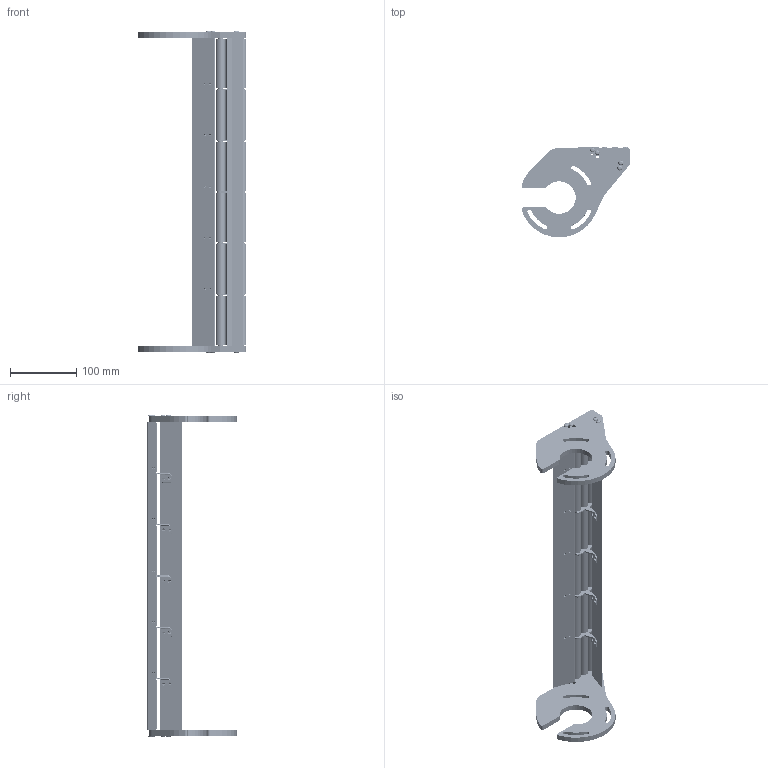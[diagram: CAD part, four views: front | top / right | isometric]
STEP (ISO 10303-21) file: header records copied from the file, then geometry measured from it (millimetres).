
FILE_DESCRIPTION (( 'STEP AP214' ), '1' );
FILE_NAME ('CAB 18 TGRI 1.STEP', '2024-02-27T08:05:51', ( '' ), ( '' ), 'SwSTEP 2.0', 'SolidWorks 2022', '' );
FILE_SCHEMA (( 'AUTOMOTIVE_DESIGN' ));
Length unit declared in the file: millimetre
Products named in the file (13): PSTI CAB 1 Symétrie; ROULEMENT TGRI CAB FLEXTOO; SA TGRI + ENTRETOISE; TBHC 4X16; ENTRETOISE SA TGRI; ENTRETOISE TGRI CAB-F2-R-HEF; PT-F2 - CAB 18 ALU; SA TGRI; PSTI CAB 1; Galet + roulement CAB 18; GR CAB 18; AXE TGRI CAB 18; CAB 18 TGRI 1
Assembly tree (51 placements, depth 3):
  CAB 18 TGRI 1
    PSTI CAB 1 Symétrie
    PSTI CAB 1
    PT-F2 - CAB 18 ALU  x2
    AXE TGRI CAB 18  x3
    ENTRETOISE TGRI CAB-F2-R-HEF  x6
    SA TGRI + ENTRETOISE  x5
      SA TGRI
      ENTRETOISE SA TGRI
    Galet + roulement CAB 18  x18
      GR CAB 18
      ROULEMENT TGRI CAB FLEXTOO
    TBHC 4X16  x8
Bounding box: 164.87 x 136.6 x 488.78 mm (x, y, z)
Volume: 643917.1 mm3; surface area: 306752.7 mm2
Topology: 95 solids, 95 shells, 3373 faces, 7551 edges, 4493 vertices
Faces by surface type: cylinder 1167, cone 1024, plane 573, torus 519, sphere 65, bspline 25
Entity records: 17705 total; most frequent: CARTESIAN_POINT 3303, DIRECTION 3158, ORIENTED_EDGE 2610, EDGE_CURVE 1305, AXIS2_PLACEMENT_3D 1285, VERTEX_POINT 791, CIRCLE 679, EDGE_LOOP 612
